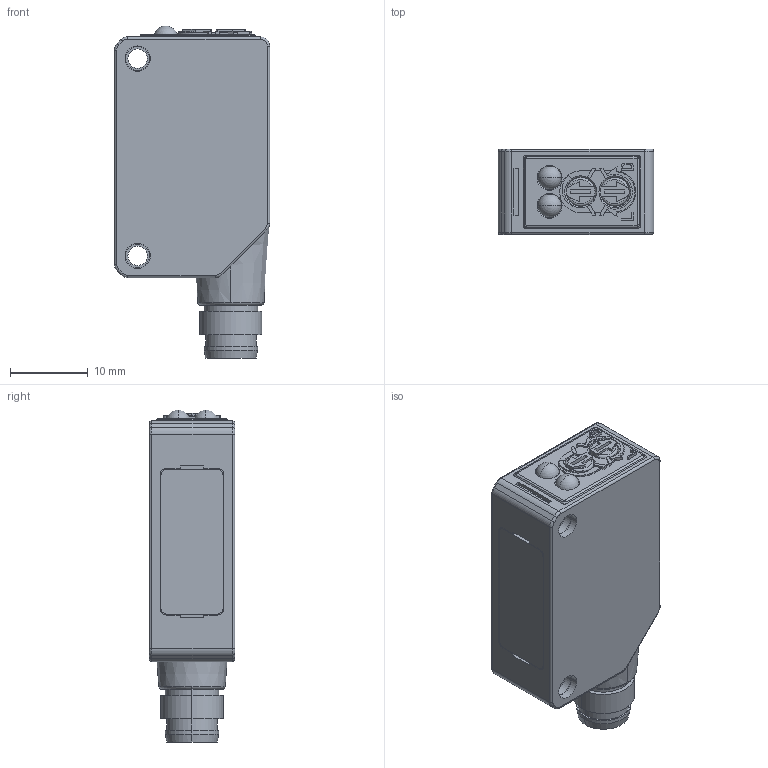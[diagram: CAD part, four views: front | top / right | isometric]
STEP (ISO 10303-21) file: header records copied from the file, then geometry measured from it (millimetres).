
FILE_DESCRIPTION(('CoCreate Modeling STEP Export'),'2;1');
FILE_NAME('Z4_Connector_Type.stp','2019-10-04T14:31:03',(''),(''),'CoCreate Modeling STEP processor for AP214 (Solid Model)','CoCreate Modeling 16.50A 01-Dec-2009 (C) Parametric Technology GmbH','');
FILE_SCHEMA(('AUTOMOTIVE_DESIGN { 1 0 10303 214 1 1 1 1 }'));
Length unit declared in the file: millimetre
Products named in the file (2): Z3_Connector_Type
Assembly tree (1 placements, depth 2):
  Z3_Connector_Type
    Z3_Connector_Type
Bounding box: 20 x 11 x 42.75 mm (x, y, z)
Volume: 6967.9 mm3; surface area: 3065.7 mm2
Topology: 1 solids, 1 shells, 293 faces, 752 edges, 486 vertices
Faces by surface type: plane 146, cylinder 99, torus 28, cone 12, sphere 4, bspline 4
Entity records: 9406 total; most frequent: CARTESIAN_POINT 2554, ORIENTED_EDGE 1496, DIRECTION 1336, EDGE_CURVE 748, VERTEX_POINT 486, AXIS2_PLACEMENT_3D 448, VECTOR 440, LINE 440
